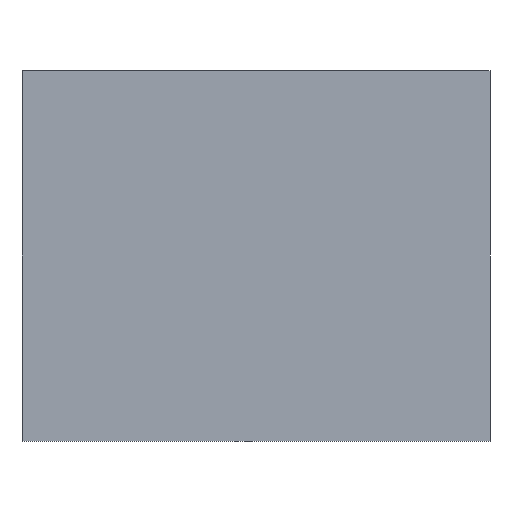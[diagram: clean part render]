
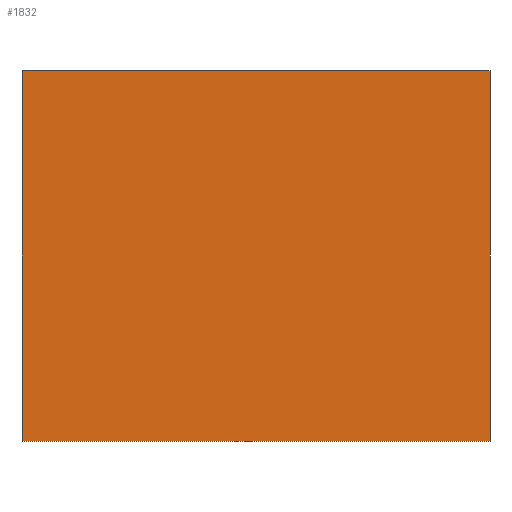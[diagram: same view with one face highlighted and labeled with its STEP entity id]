
A CAD part, front view. The second image highlights one B-rep face of the part: STEP entity #1832.
In plain terms, the highlighted planar face has unit normal (0, -1, 0).
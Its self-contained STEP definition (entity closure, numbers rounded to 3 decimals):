
#57 = CARTESIAN_POINT ( 'NONE',  ( -138.042, -80.617, 109.621 ) ) ;
#136 = DIRECTION ( 'NONE',  ( 1., 0., 0. ) ) ;
#237 = CARTESIAN_POINT ( 'NONE',  ( 138.042, -80.617, 109.621 ) ) ;
#266 = CARTESIAN_POINT ( 'NONE',  ( 138.042, -80.617, -108.901 ) ) ;
#293 = LINE ( 'NONE', #399, #3460 ) ;
#387 = CARTESIAN_POINT ( 'NONE',  ( 138.042, -80.617, -108.901 ) ) ;
#399 = CARTESIAN_POINT ( 'NONE',  ( -138.042, -80.617, -108.901 ) ) ;
#425 = VECTOR ( 'NONE', #713, 1000. ) ;
#583 = VERTEX_POINT ( 'NONE', #5229 ) ;
#700 = DIRECTION ( 'NONE',  ( 0., 0., 1. ) ) ;
#713 = DIRECTION ( 'NONE',  ( 0., 0., -1. ) ) ;
#830 = DIRECTION ( 'NONE',  ( 0., 0., 1. ) ) ;
#1036 = ORIENTED_EDGE ( 'NONE', *, *, #3751, .F. ) ;
#1060 = ORIENTED_EDGE ( 'NONE', *, *, #1605, .F. ) ;
#1137 = VERTEX_POINT ( 'NONE', #57 ) ;
#1223 = LINE ( 'NONE', #3256, #3286 ) ;
#1270 = VERTEX_POINT ( 'NONE', #237 ) ;
#1482 = AXIS2_PLACEMENT_3D ( 'NONE', #3554, #3166, #700 ) ;
#1509 = PLANE ( 'NONE',  #1482 ) ;
#1605 = EDGE_CURVE ( 'NONE', #1137, #1270, #3339, .T. ) ;
#1663 = LINE ( 'NONE', #266, #425 ) ;
#1832 = ADVANCED_FACE ( 'NONE', ( #3646 ), #1509, .F. ) ;
#2259 = EDGE_CURVE ( 'NONE', #1270, #4678, #1663, .T. ) ;
#2968 = EDGE_LOOP ( 'NONE', ( #4821, #1036, #4755, #1060 ) ) ;
#3166 = DIRECTION ( 'NONE',  ( 0., 1., 0. ) ) ;
#3256 = CARTESIAN_POINT ( 'NONE',  ( -138.042, -80.617, -108.901 ) ) ;
#3286 = VECTOR ( 'NONE', #3670, 1000. ) ;
#3339 = LINE ( 'NONE', #5115, #5284 ) ;
#3460 = VECTOR ( 'NONE', #830, 1000. ) ;
#3554 = CARTESIAN_POINT ( 'NONE',  ( 0., -80.617, 0. ) ) ;
#3646 = FACE_OUTER_BOUND ( 'NONE', #2968, .T. ) ;
#3670 = DIRECTION ( 'NONE',  ( -1., 0., 0. ) ) ;
#3751 = EDGE_CURVE ( 'NONE', #4678, #583, #1223, .T. ) ;
#4678 = VERTEX_POINT ( 'NONE', #387 ) ;
#4755 = ORIENTED_EDGE ( 'NONE', *, *, #2259, .F. ) ;
#4821 = ORIENTED_EDGE ( 'NONE', *, *, #4984, .F. ) ;
#4984 = EDGE_CURVE ( 'NONE', #583, #1137, #293, .T. ) ;
#5115 = CARTESIAN_POINT ( 'NONE',  ( -138.042, -80.617, 109.621 ) ) ;
#5229 = CARTESIAN_POINT ( 'NONE',  ( -138.042, -80.617, -108.901 ) ) ;
#5284 = VECTOR ( 'NONE', #136, 1000. ) ;
